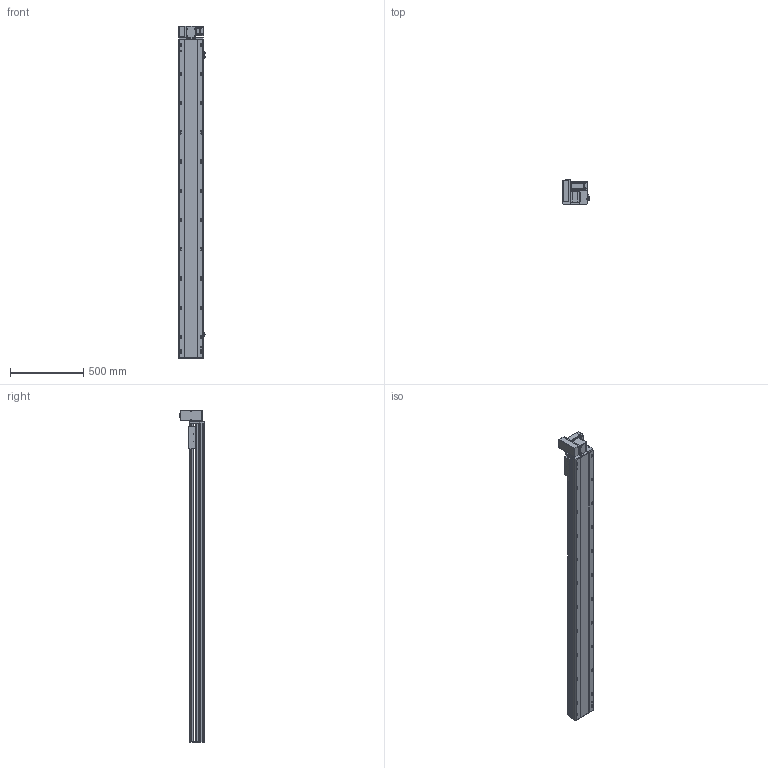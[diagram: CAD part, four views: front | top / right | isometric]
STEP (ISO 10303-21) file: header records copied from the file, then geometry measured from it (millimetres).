
FILE_DESCRIPTION (( 'STEP AP214' ), '1' );
FILE_NAME ('TPT17M-L40-1900-LU-T40-C4.STEP', '2023-03-24T05:48:06', ( '' ), ( '' ), 'SwSTEP 2.0', 'SolidWorks 2020', '' );
FILE_SCHEMA (( 'AUTOMOTIVE_DESIGN' ));
Length unit declared in the file: millimetre
Products named in the file (11): 葩璃 TPT17-L-005 賑釱MZ-170-07^TPT17M-L40-LU-T40-C4; TPT17M-L40-1900-LU-T40-C4; 葩璃 TPT17-L-001 菁釱MZ-170-01^TPT17M-L40-LU-T40-C4; 葩璃 pm-t65-672^TPT17M-L40-LU-T40-C4; 葩璃 TPT17-L-007 々湍釱MZ-169x88^TPT17M-L40-LU-T40-C4_TPT17M; 葩璃 侂狟400W^TPT17M-L40-LU-T40-C4; hexagon socket head cap screws gb_GB_FASTENER_SCREWS_HSHCS M3X6-N; hex nuts, style 1-grades ab gb_GB_FASTENER_NUT_SNAB1 M3-N; 葩璃 TPT17-L-002 奻裔MZ-170-05^TPT17M-L40-LU-T40-C4; 葩璃 (2) TPT14-L-009 萇儂啣^TPT17M-L40-LU-T40-C4_400W; hexagon head bolts-full thread gb_GB_FASTENER_BOLT_STBAB A M5X16-N
Assembly tree (22 placements, depth 2):
  TPT17M-L40-1900-LU-T40-C4
    葩璃 TPT17-L-001 菁釱MZ-170-01^TPT17M-L40-LU-T40-C4
    葩璃 TPT17-L-002 奻裔MZ-170-05^TPT17M-L40-LU-T40-C4
    葩璃 TPT17-L-005 賑釱MZ-170-07^TPT17M-L40-LU-T40-C4
    葩璃 TPT17-L-007 々湍釱MZ-169x88^TPT17M-L40-LU-T40-C4_TPT17M
    葩璃 (2) TPT14-L-009 萇儂啣^TPT17M-L40-LU-T40-C4_400W
    葩璃 pm-t65-672^TPT17M-L40-LU-T40-C4  x3
    葩璃 侂狟400W^TPT17M-L40-LU-T40-C4
    hexagon socket head cap screws gb_GB_FASTENER_SCREWS_HSHCS M3X6-N  x6
    hex nuts, style 1-grades ab gb_GB_FASTENER_NUT_SNAB1 M3-N  x6
    hexagon head bolts-full thread gb_GB_FASTENER_BOLT_STBAB A M5X16-N
Bounding box: 183.7 x 173.15 x 2272 mm (x, y, z)
Volume: 23244344.3 mm3; surface area: 2285345.8 mm2
Topology: 30 solids, 30 shells, 1811 faces, 4638 edges, 2928 vertices
Faces by surface type: plane 931, cylinder 608, cone 234, bspline 26, torus 12
Entity records: 44361 total; most frequent: CARTESIAN_POINT 8384, DIRECTION 7305, ORIENTED_EDGE 6832, EDGE_CURVE 3416, AXIS2_PLACEMENT_3D 2612, VERTEX_POINT 2219, VECTOR 2081, LINE 2081
